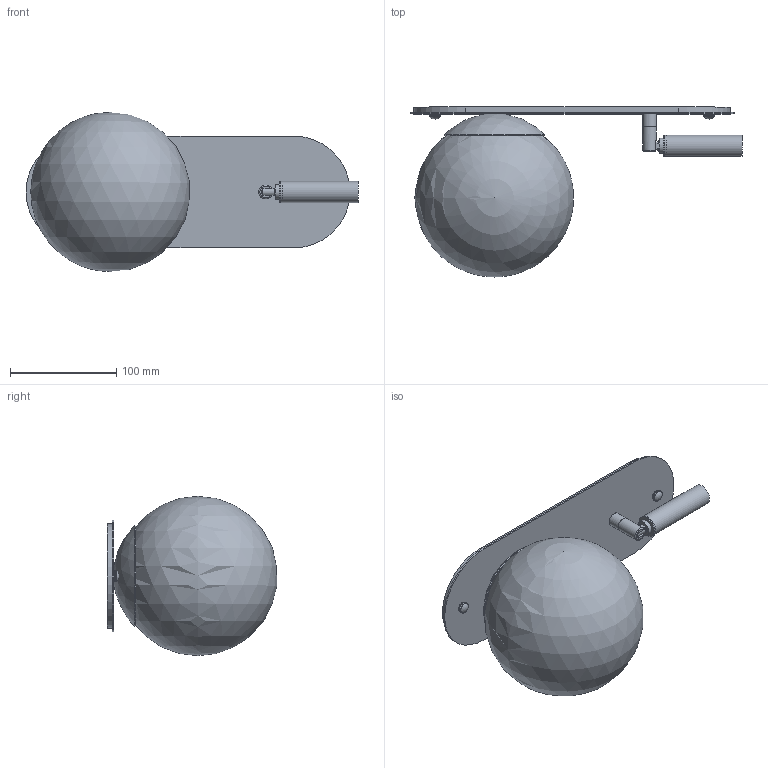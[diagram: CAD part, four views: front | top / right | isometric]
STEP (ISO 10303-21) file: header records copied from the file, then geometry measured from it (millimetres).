
FILE_DESCRIPTION(/* description */ (''),/* implementation_level */ '2;1');
FILE_NAME(/* name */ '260826_B_B787 Adrion Libris.stp',/* time_stamp */ '2026-08-26T11:47:14+02:00',/* author */ ('Lukasz'),/* organization */ (''),/* preprocessor_version */ 'ST-DEVELOPER v20.1',/* originating_system */ 'Autodesk Inventor 2027',/* authorisation */ '');
FILE_SCHEMA (('AUTOMOTIVE_DESIGN { 1 0 10303 214 3 1 1 }'));
Length unit declared in the file: millimetre
Products named in the file (1): B787 Adrion Libris CE v0 - wiz Katalog - część
Bounding box: 312.5 x 159.97 x 150 mm (x, y, z)
Volume: 1976323.1 mm3; surface area: 216521.2 mm2
Topology: 135 solids, 135 shells, 1041 faces, 2304 edges, 1537 vertices
Faces by surface type: plane 882, cylinder 144, cone 5, sphere 5, bspline 4, torus 1
Full cylindrical faces by diameter (mm): 4 x2, 9.75 x1, 10 x2, 13 x2, 14 x1, 16 x2, 19 x1, 20 x2
Entity records: 30136 total; most frequent: CARTESIAN_POINT 5654, DIRECTION 4674, ORIENTED_EDGE 4604, EDGE_CURVE 2302, LINE 1986, VECTOR 1986, VERTEX_POINT 1536, AXIS2_PLACEMENT_3D 1344
